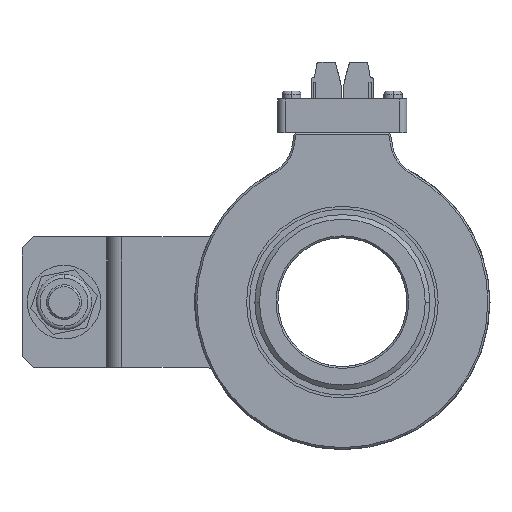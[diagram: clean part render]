
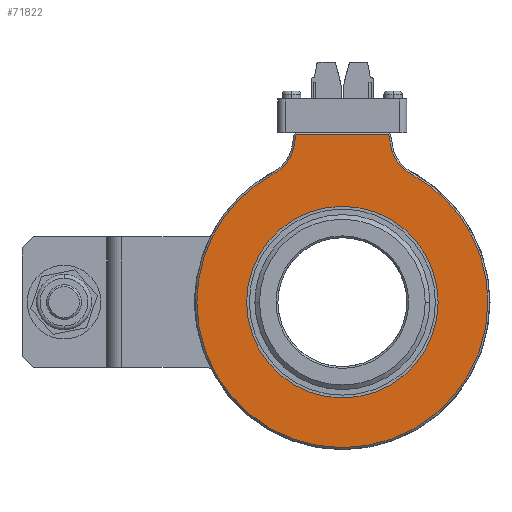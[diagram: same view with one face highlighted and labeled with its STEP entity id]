
A CAD part, left-side view. The second image highlights one B-rep face of the part: STEP entity #71822.
In plain terms, the highlighted planar face has unit normal (-1, 0, 0).
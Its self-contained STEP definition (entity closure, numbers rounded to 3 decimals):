
#324 = AXIS2_PLACEMENT_3D ( 'NONE', #3011, #50106, #82047 ) ;
#415 = DIRECTION ( 'NONE',  ( 0., 1., 0. ) ) ;
#910 = CIRCLE ( 'NONE', #57683, 26. ) ;
#1747 = CARTESIAN_POINT ( 'NONE',  ( -26., 0., 0. ) ) ;
#1780 = EDGE_CURVE ( 'NONE', #9513, #70524, #62004, .T. ) ;
#2218 = EDGE_LOOP ( 'NONE', ( #41362, #6508, #91392, #88195, #81253, #53491, #16990, #33910 ) ) ;
#2583 = EDGE_CURVE ( 'NONE', #91119, #66695, #56438, .T. ) ;
#3011 = CARTESIAN_POINT ( 'NONE',  ( -26., 0., 0. ) ) ;
#4180 = EDGE_LOOP ( 'NONE', ( #97757, #77946 ) ) ;
#5716 = DIRECTION ( 'NONE',  ( -1., 0., 0. ) ) ;
#6508 = ORIENTED_EDGE ( 'NONE', *, *, #46365, .T. ) ;
#9371 = VECTOR ( 'NONE', #10896, 1000. ) ;
#9513 = VERTEX_POINT ( 'NONE', #13950 ) ;
#10575 = CARTESIAN_POINT ( 'NONE',  ( -26., 21.188, -3.317 ) ) ;
#10896 = DIRECTION ( 'NONE',  ( 0., 0.174, 0.985 ) ) ;
#12526 = CARTESIAN_POINT ( 'NONE',  ( -26., 0., 0. ) ) ;
#13950 = CARTESIAN_POINT ( 'NONE',  ( -26., 13.141, 42.32 ) ) ;
#14966 = CARTESIAN_POINT ( 'NONE',  ( -26., 26., 0. ) ) ;
#16870 = AXIS2_PLACEMENT_3D ( 'NONE', #32934, #101133, #67630 ) ;
#16990 = ORIENTED_EDGE ( 'NONE', *, *, #90008, .T. ) ;
#17859 = DIRECTION ( 'NONE',  ( -1., 0., 0. ) ) ;
#18048 = EDGE_CURVE ( 'NONE', #68544, #91119, #100781, .T. ) ;
#18390 = DIRECTION ( 'NONE',  ( 0., -1., 0. ) ) ;
#21229 = EDGE_CURVE ( 'NONE', #86368, #36469, #89563, .T. ) ;
#26745 = PLANE ( 'NONE',  #79566 ) ;
#27943 = AXIS2_PLACEMENT_3D ( 'NONE', #1747, #58765, #66078 ) ;
#32934 = CARTESIAN_POINT ( 'NONE',  ( -26., 23.482, 44.143 ) ) ;
#33910 = ORIENTED_EDGE ( 'NONE', *, *, #18048, .T. ) ;
#35340 = CARTESIAN_POINT ( 'NONE',  ( -26., 12.58, 45.5 ) ) ;
#36098 = FACE_BOUND ( 'NONE', #4180, .T. ) ;
#36469 = VERTEX_POINT ( 'NONE', #101079 ) ;
#36828 = EDGE_CURVE ( 'NONE', #70524, #86368, #99884, .T. ) ;
#39323 = DIRECTION ( 'NONE',  ( -1., 0., 0. ) ) ;
#41362 = ORIENTED_EDGE ( 'NONE', *, *, #2583, .T. ) ;
#41986 = CARTESIAN_POINT ( 'NONE',  ( -26., 39.5, 0. ) ) ;
#45429 = CIRCLE ( 'NONE', #324, 39.5 ) ;
#45966 = DIRECTION ( 'NONE',  ( 0., -1., 0. ) ) ;
#46365 = EDGE_CURVE ( 'NONE', #66695, #71086, #94565, .T. ) ;
#46400 = DIRECTION ( 'NONE',  ( 0., 1., 0. ) ) ;
#47708 = EDGE_CURVE ( 'NONE', #101845, #73130, #910, .T. ) ;
#49683 = EDGE_CURVE ( 'NONE', #73130, #101845, #59710, .T. ) ;
#49719 = CARTESIAN_POINT ( 'NONE',  ( -26., -26., 0. ) ) ;
#50106 = DIRECTION ( 'NONE',  ( -1., 0., 0. ) ) ;
#50748 = CARTESIAN_POINT ( 'NONE',  ( -26., -23.482, 44.143 ) ) ;
#50819 = VECTOR ( 'NONE', #46400, 1000. ) ;
#53491 = ORIENTED_EDGE ( 'NONE', *, *, #21229, .T. ) ;
#53823 = CARTESIAN_POINT ( 'NONE',  ( -26., 0., 0. ) ) ;
#54553 = CARTESIAN_POINT ( 'NONE',  ( -26., 0., 0. ) ) ;
#55196 = EDGE_CURVE ( 'NONE', #71086, #9513, #90666, .T. ) ;
#56389 = DIRECTION ( 'NONE',  ( 1., 0., 0. ) ) ;
#56438 = LINE ( 'NONE', #97790, #9371 ) ;
#57683 = AXIS2_PLACEMENT_3D ( 'NONE', #53823, #56389, #415 ) ;
#58765 = DIRECTION ( 'NONE',  ( 1., 0., 0. ) ) ;
#59710 = CIRCLE ( 'NONE', #27943, 26. ) ;
#62004 = CIRCLE ( 'NONE', #16870, 10.5 ) ;
#62571 = AXIS2_PLACEMENT_3D ( 'NONE', #54553, #39323, #70784 ) ;
#63413 = CARTESIAN_POINT ( 'NONE',  ( -26., -12.58, 45.5 ) ) ;
#63990 = AXIS2_PLACEMENT_3D ( 'NONE', #50748, #90568, #99430 ) ;
#66078 = DIRECTION ( 'NONE',  ( 0., 1., 0. ) ) ;
#66695 = VERTEX_POINT ( 'NONE', #63413 ) ;
#67365 = CARTESIAN_POINT ( 'NONE',  ( -26., -13.141, 42.32 ) ) ;
#67630 = DIRECTION ( 'NONE',  ( 0., -1., 0. ) ) ;
#68544 = VERTEX_POINT ( 'NONE', #82126 ) ;
#70314 = VECTOR ( 'NONE', #91669, 1000. ) ;
#70524 = VERTEX_POINT ( 'NONE', #100120 ) ;
#70784 = DIRECTION ( 'NONE',  ( 0., -1., 0. ) ) ;
#71086 = VERTEX_POINT ( 'NONE', #35340 ) ;
#71822 = ADVANCED_FACE ( 'NONE', ( #89574, #36098 ), #26745, .T. ) ;
#73130 = VERTEX_POINT ( 'NONE', #49719 ) ;
#74884 = CARTESIAN_POINT ( 'NONE',  ( -26., 40., 0. ) ) ;
#77946 = ORIENTED_EDGE ( 'NONE', *, *, #49683, .T. ) ;
#79566 = AXIS2_PLACEMENT_3D ( 'NONE', #74884, #17859, #18390 ) ;
#81253 = ORIENTED_EDGE ( 'NONE', *, *, #36828, .T. ) ;
#82047 = DIRECTION ( 'NONE',  ( 0., -1., 0. ) ) ;
#82126 = CARTESIAN_POINT ( 'NONE',  ( -26., -18.551, 34.873 ) ) ;
#86368 = VERTEX_POINT ( 'NONE', #41986 ) ;
#88195 = ORIENTED_EDGE ( 'NONE', *, *, #1780, .T. ) ;
#89563 = CIRCLE ( 'NONE', #62571, 39.5 ) ;
#89574 = FACE_OUTER_BOUND ( 'NONE', #2218, .T. ) ;
#90008 = EDGE_CURVE ( 'NONE', #36469, #68544, #45429, .T. ) ;
#90568 = DIRECTION ( 'NONE',  ( 1., 0., 0. ) ) ;
#90666 = LINE ( 'NONE', #10575, #70314 ) ;
#91119 = VERTEX_POINT ( 'NONE', #67365 ) ;
#91392 = ORIENTED_EDGE ( 'NONE', *, *, #55196, .T. ) ;
#91669 = DIRECTION ( 'NONE',  ( 0., 0.174, -0.985 ) ) ;
#94565 = LINE ( 'NONE', #102930, #50819 ) ;
#94887 = AXIS2_PLACEMENT_3D ( 'NONE', #12526, #5716, #45966 ) ;
#97757 = ORIENTED_EDGE ( 'NONE', *, *, #47708, .T. ) ;
#97790 = CARTESIAN_POINT ( 'NONE',  ( -26., -18.776, 10.364 ) ) ;
#99430 = DIRECTION ( 'NONE',  ( 0., -1., 0. ) ) ;
#99884 = CIRCLE ( 'NONE', #94887, 39.5 ) ;
#100120 = CARTESIAN_POINT ( 'NONE',  ( -26., 18.551, 34.873 ) ) ;
#100781 = CIRCLE ( 'NONE', #63990, 10.5 ) ;
#101079 = CARTESIAN_POINT ( 'NONE',  ( -26., -39.5, 0. ) ) ;
#101133 = DIRECTION ( 'NONE',  ( 1., 0., 0. ) ) ;
#101845 = VERTEX_POINT ( 'NONE', #14966 ) ;
#102930 = CARTESIAN_POINT ( 'NONE',  ( -26., 40., 45.5 ) ) ;
